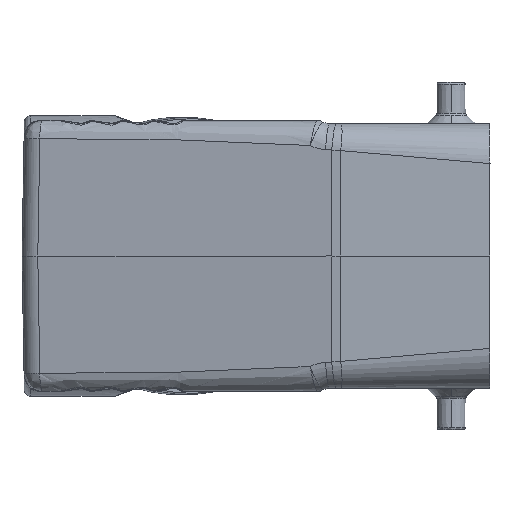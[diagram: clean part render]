
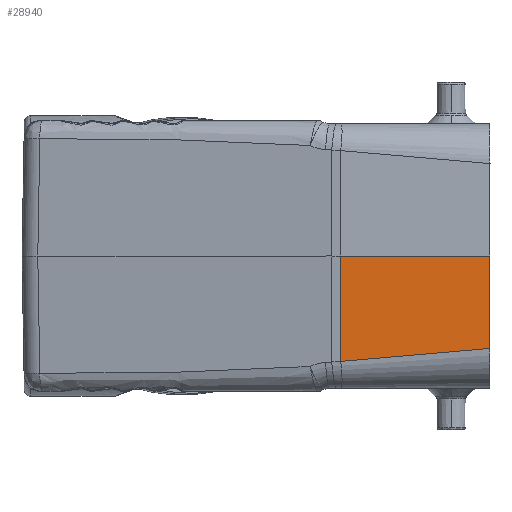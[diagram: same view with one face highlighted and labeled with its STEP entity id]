
A CAD part, left-side view. The second image highlights one B-rep face of the part: STEP entity #28940.
In plain terms, the highlighted planar face has unit normal (-1, 0, -0.018).
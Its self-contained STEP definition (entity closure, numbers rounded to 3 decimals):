
#4 = CARTESIAN_POINT ( 'NONE',  ( -59.713, 18.189, -16.485 ) ) ;
#17 = EDGE_CURVE ( 'NONE', #10761, #14930, #14794, .T. ) ;
#151 = CARTESIAN_POINT ( 'NONE',  ( -59.701, 24.247, -17.121 ) ) ;
#1541 = CARTESIAN_POINT ( 'NONE',  ( -59.729, 5.935, -15.502 ) ) ;
#1635 = CARTESIAN_POINT ( 'NONE',  ( -59.723, 10.541, -15.852 ) ) ;
#1742 = CARTESIAN_POINT ( 'NONE',  ( -59.72, 13.214, -16.059 ) ) ;
#1837 = CARTESIAN_POINT ( 'NONE',  ( -59.729, 6.047, -15.51 ) ) ;
#3771 = CARTESIAN_POINT ( 'NONE',  ( -59.737, 0.824, -15.085 ) ) ;
#3863 = CARTESIAN_POINT ( 'NONE',  ( -59.729, 6.054, -15.511 ) ) ;
#3954 = CARTESIAN_POINT ( 'NONE',  ( -59.721, 12.111, -15.973 ) ) ;
#4051 = CARTESIAN_POINT ( 'NONE',  ( -59.734, 2.895, -15.258 ) ) ;
#4409 = DIRECTION ( 'NONE',  ( 0., 1., 0. ) ) ;
#6178 = CARTESIAN_POINT ( 'NONE',  ( -59.728, 6.749, -15.565 ) ) ;
#6278 = CARTESIAN_POINT ( 'NONE',  ( -59.729, 6.029, -15.509 ) ) ;
#6372 = CARTESIAN_POINT ( 'NONE',  ( -59.725, 9.66, -15.785 ) ) ;
#6479 = CARTESIAN_POINT ( 'NONE',  ( -59.73, 5.794, -15.491 ) ) ;
#6988 = CARTESIAN_POINT ( 'NONE',  ( -59.713, 17.99, -16.467 ) ) ;
#7515 = FACE_OUTER_BOUND ( 'NONE', #18907, .T. ) ;
#8806 = CARTESIAN_POINT ( 'NONE',  ( -59.732, 3.761, -15.329 ) ) ;
#9016 = CARTESIAN_POINT ( 'NONE',  ( -59.701, 24.247, -17.121 ) ) ;
#10375 = ORIENTED_EDGE ( 'NONE', *, *, #17, .T. ) ;
#10730 = CARTESIAN_POINT ( 'NONE',  ( -59.738, 0., -15.014 ) ) ;
#10761 = VERTEX_POINT ( 'NONE', #13551 ) ;
#10826 = CARTESIAN_POINT ( 'NONE',  ( -59.722, 11.986, -15.963 ) ) ;
#10923 = CARTESIAN_POINT ( 'NONE',  ( -59.727, 7.597, -15.629 ) ) ;
#11124 = CARTESIAN_POINT ( 'NONE',  ( -59.734, 2.495, -15.225 ) ) ;
#11329 = CARTESIAN_POINT ( 'NONE',  ( -59.713, 18.093, -16.476 ) ) ;
#11343 = CARTESIAN_POINT ( 'NONE',  ( -60., 0., 0. ) ) ;
#12083 = AXIS2_PLACEMENT_3D ( 'NONE', #16255, #23302, #16152 ) ;
#12962 = VECTOR ( 'NONE', #15036, 1000. ) ;
#13050 = CARTESIAN_POINT ( 'NONE',  ( -59.73, 5.362, -15.457 ) ) ;
#13165 = LINE ( 'NONE', #18272, #17889 ) ;
#13236 = CARTESIAN_POINT ( 'NONE',  ( -59.722, 11.316, -15.911 ) ) ;
#13333 = CARTESIAN_POINT ( 'NONE',  ( -59.737, 0.381, -15.047 ) ) ;
#13436 = CARTESIAN_POINT ( 'NONE',  ( -59.721, 12.059, -15.969 ) ) ;
#13551 = CARTESIAN_POINT ( 'NONE',  ( -60., 24.269, 0. ) ) ;
#13626 = CARTESIAN_POINT ( 'NONE',  ( -59.713, 18.144, -16.481 ) ) ;
#13833 = CARTESIAN_POINT ( 'NONE',  ( -59.708, 21.218, -16.765 ) ) ;
#14623 = VECTOR ( 'NONE', #16501, 1000. ) ;
#14794 = LINE ( 'NONE', #17484, #12962 ) ;
#14930 = VERTEX_POINT ( 'NONE', #151 ) ;
#15036 = DIRECTION ( 'NONE',  ( 0.017, -0.001, -1. ) ) ;
#15279 = CARTESIAN_POINT ( 'NONE',  ( -59.721, 12.123, -15.974 ) ) ;
#15372 = CARTESIAN_POINT ( 'NONE',  ( -59.733, 3.02, -15.268 ) ) ;
#15468 = CARTESIAN_POINT ( 'NONE',  ( -59.736, 1.582, -15.149 ) ) ;
#15735 = VERTEX_POINT ( 'NONE', #26171 ) ;
#15772 = CARTESIAN_POINT ( 'NONE',  ( -59.716, 16.273, -16.313 ) ) ;
#16025 = EDGE_CURVE ( 'NONE', #27614, #10761, #13165, .T. ) ;
#16152 = DIRECTION ( 'NONE',  ( -0.017, 0., 1. ) ) ;
#16255 = CARTESIAN_POINT ( 'NONE',  ( -60., 25., 0. ) ) ;
#16501 = DIRECTION ( 'NONE',  ( 0.017, 0., -1. ) ) ;
#16578 = EDGE_CURVE ( 'NONE', #27614, #15735, #18245, .T. ) ;
#17484 = CARTESIAN_POINT ( 'NONE',  ( -60., 24.269, 0. ) ) ;
#17718 = CARTESIAN_POINT ( 'NONE',  ( -59.729, 6.001, -15.507 ) ) ;
#17819 = CARTESIAN_POINT ( 'NONE',  ( -59.723, 10.845, -15.875 ) ) ;
#17889 = VECTOR ( 'NONE', #4409, 1000. ) ;
#18014 = CARTESIAN_POINT ( 'NONE',  ( -59.733, 3.012, -15.268 ) ) ;
#18245 = LINE ( 'NONE', #25174, #14623 ) ;
#18272 = CARTESIAN_POINT ( 'NONE',  ( -60., 25., 0. ) ) ;
#18326 = CARTESIAN_POINT ( 'NONE',  ( -59.714, 17.004, -16.378 ) ) ;
#18431 = CARTESIAN_POINT ( 'NONE',  ( -59.713, 18.188, -16.485 ) ) ;
#18529 = CARTESIAN_POINT ( 'NONE',  ( -59.713, 17.783, -16.448 ) ) ;
#18907 = EDGE_LOOP ( 'NONE', ( #10375, #25031, #24955, #25163 ) ) ;
#19954 = CARTESIAN_POINT ( 'NONE',  ( -59.735, 1.985, -15.183 ) ) ;
#20042 = CARTESIAN_POINT ( 'NONE',  ( -59.732, 4.379, -15.379 ) ) ;
#20143 = CARTESIAN_POINT ( 'NONE',  ( -59.718, 14.261, -16.144 ) ) ;
#20229 = EDGE_CURVE ( 'NONE', #15735, #14930, #21038, .T. ) ;
#20245 = CARTESIAN_POINT ( 'NONE',  ( -59.725, 9.114, -15.744 ) ) ;
#20344 = CARTESIAN_POINT ( 'NONE',  ( -59.73, 5.137, -15.439 ) ) ;
#21038 = B_SPLINE_CURVE_WITH_KNOTS ( 'NONE', 3,
 ( #10730, #13333, #3771, #15468, #19954, #11124, #22314, #4051, #24768, #24854, #18014, #15372, #8806, #20042, #20344, #13050, #29281, #6479, #1541, #17718, #6278, #1837, #3863, #6178, #10923, #20245, #6372, #1635, #17819, #13236, #22610, #27370, #10826, #13436, #27079, #3954, #15279, #1742, #20143, #29471, #15772, #18326, #29779, #18529, #6988, #11329, #13626, #29676, #25258, #18431, #4, #13833, #27562, #9016 ),
 .UNSPECIFIED., .F., .F.,
 ( 4, 2, 1, 1, 1, 1, 1, 2, 2, 2, 2, 1, 1, 1, 2, 2, 2, 2, 2, 1, 1, 1, 1, 2, 2, 2, 2, 1, 1, 1, 1, 1, 1, 2, 2, 4 ),
 ( 0., 0.063, 0.094, 0.109, 0.117, 0.121, 0.123, 0.124, 0.125, 0.188, 0.219, 0.234, 0.242, 0.246, 0.248, 0.25, 0.375, 0.438, 0.469, 0.484, 0.492, 0.496, 0.498, 0.499, 0.5, 0.625, 0.688, 0.719, 0.734, 0.742, 0.746, 0.748, 0.749, 0.75, 0.75, 1. ),
 .UNSPECIFIED. ) ;
#22314 = CARTESIAN_POINT ( 'NONE',  ( -59.734, 2.76, -15.247 ) ) ;
#22610 = CARTESIAN_POINT ( 'NONE',  ( -59.722, 11.556, -15.93 ) ) ;
#23302 = DIRECTION ( 'NONE',  ( -1., 0., -0.017 ) ) ;
#24768 = CARTESIAN_POINT ( 'NONE',  ( -59.734, 2.963, -15.264 ) ) ;
#24854 = CARTESIAN_POINT ( 'NONE',  ( -59.734, 2.993, -15.266 ) ) ;
#24955 = ORIENTED_EDGE ( 'NONE', *, *, #16578, .F. ) ;
#25031 = ORIENTED_EDGE ( 'NONE', *, *, #20229, .F. ) ;
#25163 = ORIENTED_EDGE ( 'NONE', *, *, #16025, .T. ) ;
#25174 = CARTESIAN_POINT ( 'NONE',  ( -60., 0., 0. ) ) ;
#25258 = CARTESIAN_POINT ( 'NONE',  ( -59.713, 18.181, -16.484 ) ) ;
#25756 = PLANE ( 'NONE',  #12083 ) ;
#26171 = CARTESIAN_POINT ( 'NONE',  ( -59.738, 0., -15.014 ) ) ;
#27079 = CARTESIAN_POINT ( 'NONE',  ( -59.721, 12.09, -15.972 ) ) ;
#27370 = CARTESIAN_POINT ( 'NONE',  ( -59.722, 11.841, -15.952 ) ) ;
#27562 = CARTESIAN_POINT ( 'NONE',  ( -59.703, 23.231, -17.002 ) ) ;
#27614 = VERTEX_POINT ( 'NONE', #11343 ) ;
#28940 = ADVANCED_FACE ( 'NONE', ( #7515 ), #25756, .T. ) ;
#29281 = CARTESIAN_POINT ( 'NONE',  ( -59.73, 5.657, -15.48 ) ) ;
#29471 = CARTESIAN_POINT ( 'NONE',  ( -59.716, 15.777, -16.271 ) ) ;
#29676 = CARTESIAN_POINT ( 'NONE',  ( -59.713, 18.17, -16.483 ) ) ;
#29779 = CARTESIAN_POINT ( 'NONE',  ( -59.714, 17.366, -16.41 ) ) ;
